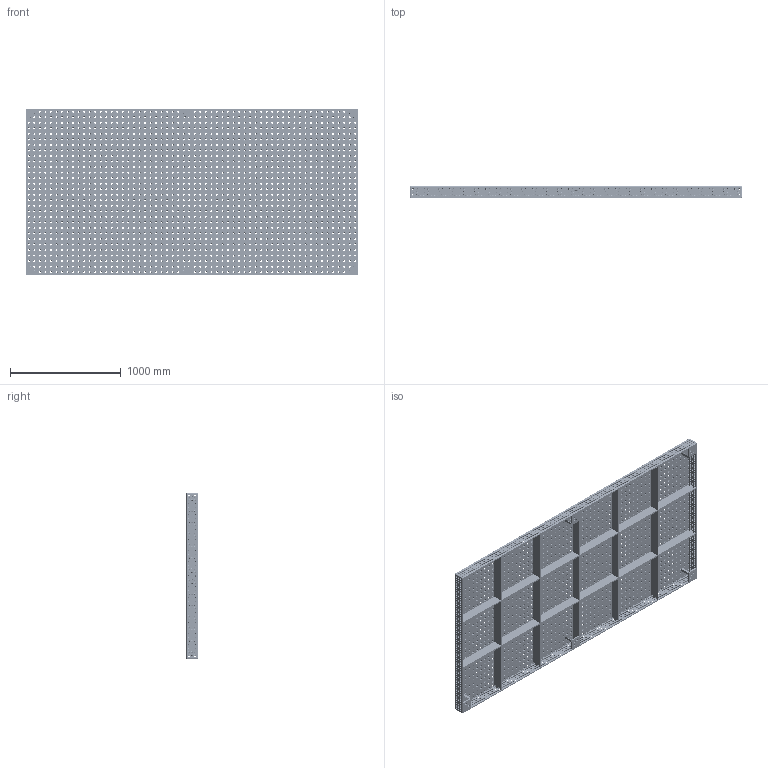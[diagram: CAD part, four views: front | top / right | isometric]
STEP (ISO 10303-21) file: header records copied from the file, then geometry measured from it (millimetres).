
FILE_DESCRIPTION (( 'STEP AP203' ), '1' );
FILE_NAME ('160040.X7D - 16003135_16003135_16003136_16001993_______.step', '2022-06-07T13:18:43', ( '' ), ( '' ), 'SwSTEP 2.0', 'SolidWorks 2020', '' );
FILE_SCHEMA (( 'CONFIG_CONTROL_DESIGN' ));
Products named in the file (1): 160040.X7D - 16003135_16003135_16003136_16001993_______
Bounding box: 3000 x 100 x 1500 mm (x, y, z)
Volume: 70587759.4 mm3; surface area: 13335674.1 mm2
Topology: 1 solids, 1 shells, 16544 faces, 38812 edges, 22242 vertices
Faces by surface type: cone 5476, cylinder 5456, torus 5404, plane 200, bspline 8
Entity records: 487925 total; most frequent: DIRECTION 99066, CARTESIAN_POINT 78839, ORIENTED_EDGE 77624, AXIS2_PLACEMENT_3D 43733, EDGE_CURVE 38812, CIRCLE 27196, VERTEX_POINT 22242, EDGE_LOOP 22020
